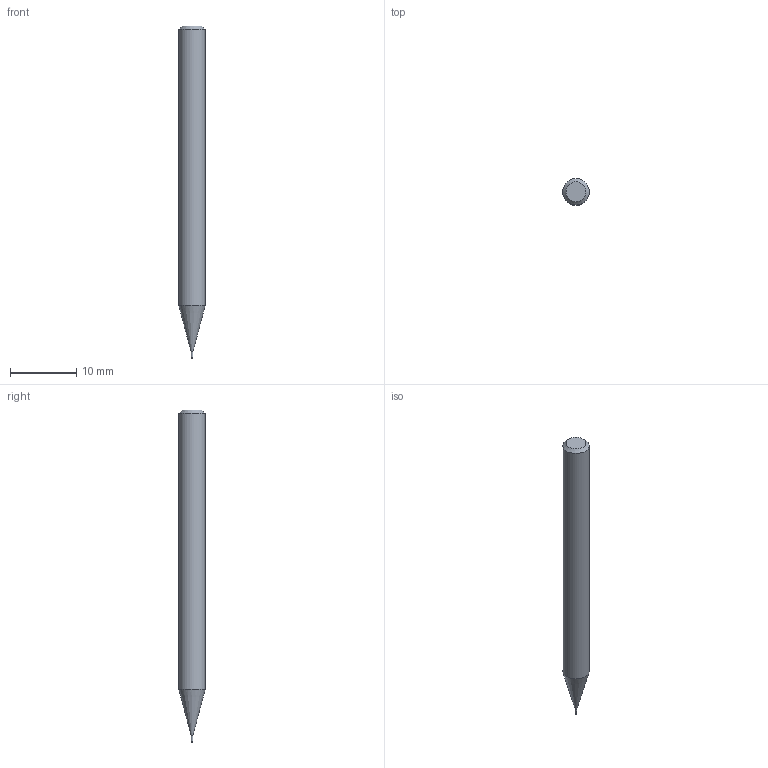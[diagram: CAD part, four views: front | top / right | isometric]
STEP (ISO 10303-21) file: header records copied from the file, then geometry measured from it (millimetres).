
FILE_DESCRIPTION((''),'2;1');
FILE_NAME('C:\Users\nsx150\AppData\Local\Temp\Mastercam 2021\LJSIDMOTM8\TEMP.step','2021-08-03T14:03:35',(''),(''),'STEP Write','Mastercam 2021 ... CNC Software, Inc.','');
FILE_SCHEMA(('AUTOMOTIVE_DESIGN'));
Length unit declared in the file: millimetre
Products named in the file (1): None
Bounding box: 4 x 4 x 50 mm (x, y, z)
Volume: 558.5 mm3; surface area: 586.6 mm2
Topology: 2 solids, 2 shells, 10 faces, 14 edges, 8 vertices
Faces by surface type: plane 4, cylinder 3, cone 2, torus 1
Full cylindrical faces by diameter (mm): 0.285 x1, 0.3 x1, 4 x1
Entity records: 232 total; most frequent: DIRECTION 40, CARTESIAN_POINT 28, AXIS2_PLACEMENT_3D 20, ORIENTED_EDGE 16, EDGE_LOOP 16, STYLED_ITEM 13, ADVANCED_FACE 10, FACE_BOUND 10
